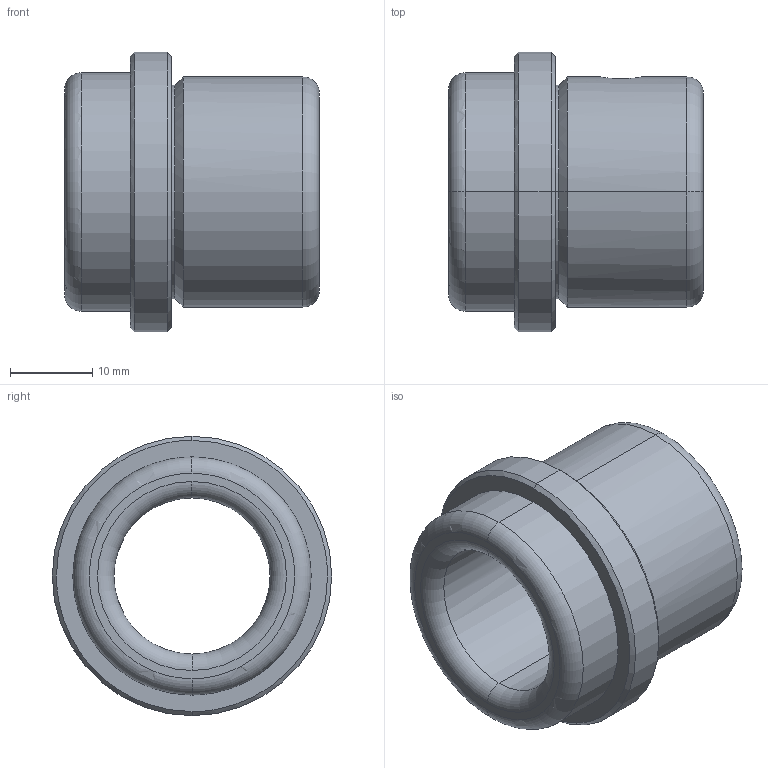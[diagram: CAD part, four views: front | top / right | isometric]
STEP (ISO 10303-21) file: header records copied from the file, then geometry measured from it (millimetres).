
FILE_DESCRIPTION(('CATIA V5 STEP Exchange'),'2;1');
FILE_NAME('C:\Users\Utente\Desktop\IO LAVORO\3D X SITO CF\X SITO\CF 631\CF 631 19 x 31.stp','2020-12-26T19:21:34+00:00',('none'),('none'),'CATIA Version 5 Release 20 GA (IN-10)','CATIA V5 STEP AP203','none');
FILE_SCHEMA(('CONFIG_CONTROL_DESIGN'));
Length unit declared in the file: millimetre
Products named in the file (1): CF 631 19 x 31
Bounding box: 31 x 34 x 34 mm (x, y, z)
Volume: 11500.2 mm3; surface area: 5892.8 mm2
Topology: 1 solids, 1 shells, 33 faces, 105 edges, 77 vertices
Faces by surface type: cylinder 12, torus 8, cone 8, plane 5
Entity records: 1425 total; most frequent: CARTESIAN_POINT 454, ORIENTED_EDGE 210, DIRECTION 156, EDGE_CURVE 105, AXIS2_PLACEMENT_3D 104, VERTEX_POINT 77, CIRCLE 70, EDGE_LOOP 40
